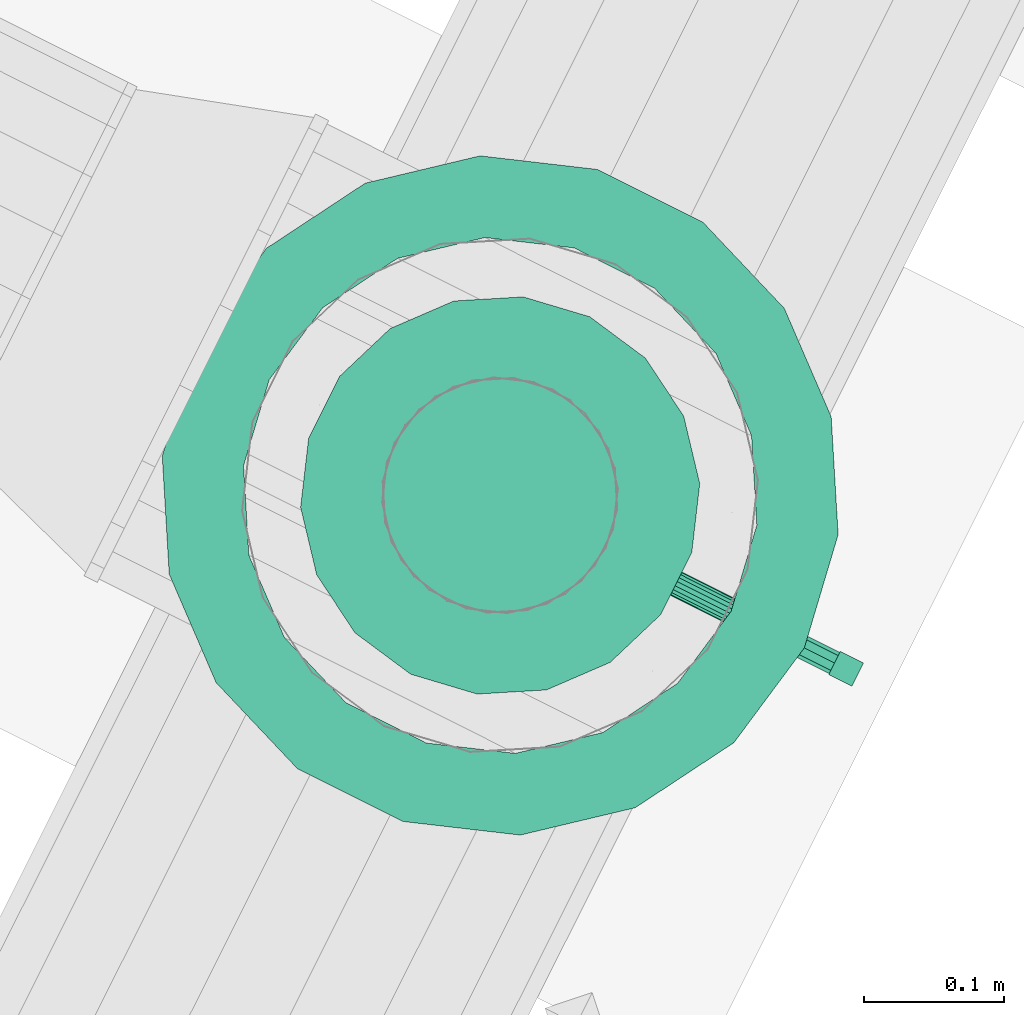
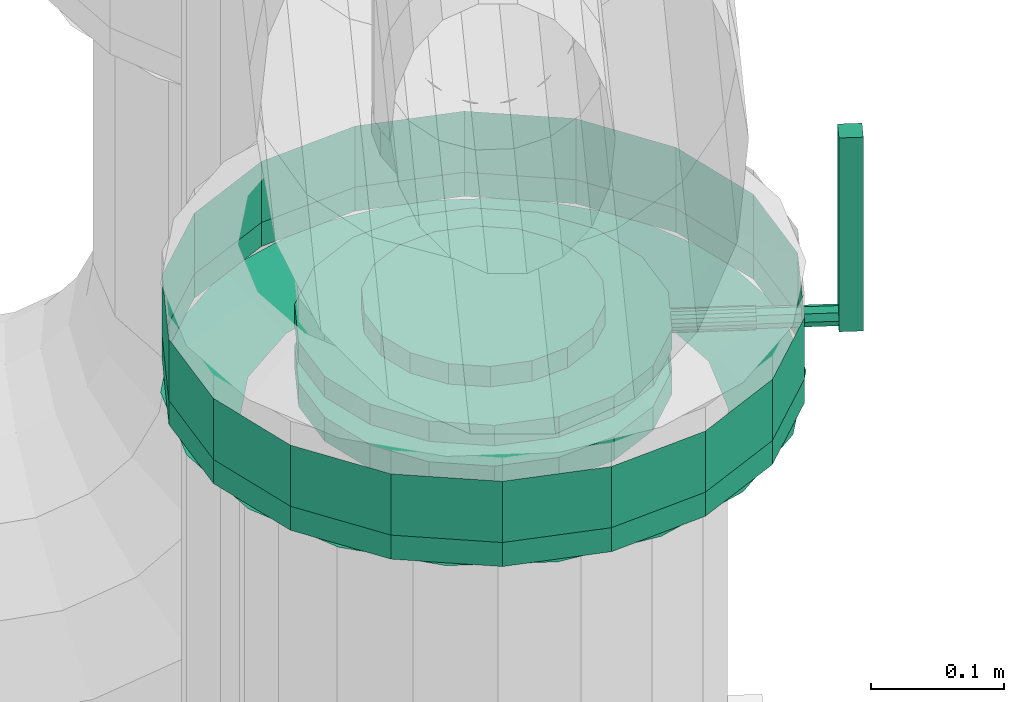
# One storey, part 22 of 152: 1 flow controller, 1 flow fitting.
"""IFC2X3 building model written with IfcOpenShell, lengths in metres."""

from ifc_helpers import new_model, si_unit, derived_unit, direction, frame, origin, place, context, subcontext, project, spatial, face_set, surface_model, source, transform, mapped, material, type_object, type_shapes, element, save


model = new_model("IFC2X3")

# Units and contexts
model_context = context("Model", 3, precision=5.2338327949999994e-05, world=origin(), true_north=direction((0.0, 1.0)))
body_context = subcontext(model_context, "Body", "Model", "MODEL_VIEW")
ifc_project = project(units=[si_unit("LENGTHUNIT", "METRE"), si_unit("AREAUNIT", "SQUARE_METRE"), si_unit("VOLUMEUNIT", "CUBIC_METRE"), si_unit("MASSUNIT", "GRAM", prefix="KILO"), si_unit("PLANEANGLEUNIT", "RADIAN"), derived_unit("THERMALTRANSMITTANCEUNIT", [(si_unit("MASSUNIT", "GRAM", prefix="KILO"), 1), (si_unit("THERMODYNAMICTEMPERATUREUNIT", "KELVIN"), -1), (si_unit("TIMEUNIT", "SECOND"), -3)])], contexts=[model_context])

# Site, building, storey
site_placement = place(None, frame((0.0, 0.0, 0.0), z_axis=(0.0, 0.0, 1.0), x_axis=(0.8939966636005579, -0.4480736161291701, 0.0)))
site = spatial("IfcSite", under=ifc_project, at=site_placement, Name="Default", CompositionType="ELEMENT")
building_placement = place(site_placement, origin())
building = spatial("IfcBuilding", under=site, at=building_placement, CompositionType="ELEMENT")
storey_placement = place(building_placement, frame((0.0, 0.0, 2.7499999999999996)))
storey = spatial("IfcBuildingStorey", under=building, at=storey_placement, Name="1. Obergeschoss", CompositionType="ELEMENT", Elevation=2.7499999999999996)

# Flow fitting
ifc_material = material(Name="IfcSurfaceStyle #9317")
distribution_element_type_1 = type_object("IfcDistributionElementType", Name="Flansch 221205:Flansch 221205", material=ifc_material)
shared_shape_1 = source(origin(), body_context, "Body", "SurfaceModel", [
    surface_model("IfcFaceBasedSurfaceModel", [(11.725814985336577, 6.734248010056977, 4.662303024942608), (11.774552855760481, 6.725654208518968, 4.662303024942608), (11.774552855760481, 6.725654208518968, 4.6403030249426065), (11.725814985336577, 6.734248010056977, 4.6403030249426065), (11.817412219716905, 6.700909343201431, 4.662303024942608), (11.817412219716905, 6.700909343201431, 4.6403030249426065), (11.84922360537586, 6.662998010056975, 4.662303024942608), (11.84922360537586, 6.662998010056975, 4.6403030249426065), (11.866150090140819, 6.616492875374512, 4.662303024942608), (11.866150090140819, 6.616492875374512, 4.6403030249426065), (11.866150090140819, 6.567003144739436, 4.662303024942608), (11.866150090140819, 6.567003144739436, 4.6403030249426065), (11.849223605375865, 6.520498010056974, 4.662303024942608), (11.849223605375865, 6.520498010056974, 4.6403030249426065), (11.817412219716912, 6.482586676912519, 4.662303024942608), (11.817412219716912, 6.482586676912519, 4.6403030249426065), (11.774552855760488, 6.457841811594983, 4.662303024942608), (11.774552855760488, 6.457841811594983, 4.6403030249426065), (11.72581498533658, 6.449248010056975, 4.662303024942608), (11.72581498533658, 6.449248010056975, 4.6403030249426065), (11.677077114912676, 6.457841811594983, 4.662303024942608), (11.677077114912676, 6.457841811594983, 4.6403030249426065), (11.63421775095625, 6.482586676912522, 4.662303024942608), (11.63421775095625, 6.482586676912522, 4.6403030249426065), (11.602406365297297, 6.5204980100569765, 4.662303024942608), (11.602406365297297, 6.5204980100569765, 4.6403030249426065), (11.585479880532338, 6.567003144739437, 4.662303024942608), (11.585479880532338, 6.567003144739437, 4.6403030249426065), (11.585479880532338, 6.616492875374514, 4.662303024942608), (11.585479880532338, 6.616492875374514, 4.6403030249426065), (11.602406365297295, 6.662998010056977, 4.662303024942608), (11.602406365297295, 6.662998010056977, 4.6403030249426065), (11.634217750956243, 6.70090934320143, 4.662303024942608), (11.634217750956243, 6.70090934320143, 4.6403030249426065), (11.677077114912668, 6.725654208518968, 4.662303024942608), (11.677077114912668, 6.725654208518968, 4.6403030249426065), (11.725814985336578, 6.591748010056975, 4.6403030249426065), (11.817814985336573, 6.591748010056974, 4.640303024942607), (11.812266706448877, 6.560282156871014, 4.640303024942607), (11.804890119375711, 6.562967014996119, 4.607303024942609), (11.80996498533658, 6.591748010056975, 4.607303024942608), (11.796291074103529, 6.532611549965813, 4.6403030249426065), (11.790277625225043, 6.537657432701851, 4.607303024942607), (11.77181498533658, 6.512073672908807, 4.6403030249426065), (11.76788998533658, 6.5188719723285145, 4.607303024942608), (11.741790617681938, 6.50114569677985, 4.6403030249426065), (11.740427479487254, 6.508876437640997, 4.607303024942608), (11.709839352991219, 6.50114569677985, 4.6403030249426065), (11.711202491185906, 6.508876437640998, 4.607303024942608), (11.679814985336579, 6.51207367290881, 4.6403030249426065), (11.68373998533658, 6.5188719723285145, 4.607303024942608), (11.655338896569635, 6.532611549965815, 4.6403030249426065), (11.661352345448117, 6.537657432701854, 4.607303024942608), (11.639363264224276, 6.560282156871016, 4.640303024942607), (11.646739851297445, 6.5629670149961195, 4.607303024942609), (11.633814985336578, 6.5917480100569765, 4.6403030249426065), (11.641664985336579, 6.591748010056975, 4.607303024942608), (11.639363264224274, 6.623213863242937, 4.6403030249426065), (11.646739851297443, 6.62052900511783, 4.607303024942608), (11.655338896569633, 6.650884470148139, 4.6403030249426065), (11.661352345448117, 6.645838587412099, 4.607303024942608), (11.679814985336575, 6.6714223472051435, 4.6403030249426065), (11.683739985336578, 6.664624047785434, 4.607303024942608), (11.709839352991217, 6.682350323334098, 4.6403030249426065), (11.711202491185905, 6.674619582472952, 4.607303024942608), (11.741790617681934, 6.682350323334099, 4.6403030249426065), (11.740427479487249, 6.674619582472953, 4.607303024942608), (11.77181498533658, 6.671422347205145, 4.6403030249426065), (11.767889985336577, 6.664624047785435, 4.607303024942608), (11.796291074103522, 6.650884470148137, 4.6403030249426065), (11.790277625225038, 6.645838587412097, 4.607303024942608), (11.812266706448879, 6.623213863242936, 4.6403030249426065), (11.804890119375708, 6.620529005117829, 4.607303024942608), (11.725814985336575, 6.834248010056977, 4.662303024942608), (11.808754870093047, 6.819623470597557, 4.662303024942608), (11.808754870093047, 6.819623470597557, 4.6403030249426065), (11.725814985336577, 6.834248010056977, 4.6403030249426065), (11.88169098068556, 6.777513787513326, 4.662303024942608), (11.88169098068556, 6.777513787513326, 4.6403030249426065), (11.9358261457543, 6.712998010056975, 4.662303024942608), (11.9358261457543, 6.712998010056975, 4.6403030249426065), (11.964630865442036, 6.6338576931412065, 4.662303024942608), (11.964630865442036, 6.6338576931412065, 4.6403030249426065), (11.964630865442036, 6.549638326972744, 4.662303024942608), (11.964630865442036, 6.549638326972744, 4.6403030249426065), (11.935826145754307, 6.470498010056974, 4.662303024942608), (11.935826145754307, 6.470498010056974, 4.6403030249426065), (11.881690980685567, 6.405982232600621, 4.662303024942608), (11.881690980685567, 6.405982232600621, 4.6403030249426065), (11.808754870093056, 6.36387254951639, 4.662303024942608), (11.808754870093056, 6.36387254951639, 4.6403030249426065), (11.72581498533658, 6.349248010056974, 4.662303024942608), (11.72581498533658, 6.349248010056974, 4.6403030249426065), (11.64287510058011, 6.3638725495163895, 4.662303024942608), (11.64287510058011, 6.3638725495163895, 4.6403030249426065), (11.569938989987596, 6.405982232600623, 4.662303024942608), (11.569938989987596, 6.405982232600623, 4.6403030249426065), (11.515803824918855, 6.470498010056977, 4.662303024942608), (11.515803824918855, 6.470498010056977, 4.6403030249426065), (11.48699910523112, 6.549638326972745, 4.662303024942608), (11.48699910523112, 6.549638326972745, 4.6403030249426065), (11.486999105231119, 6.633857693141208, 4.662303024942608), (11.486999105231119, 6.633857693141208, 4.6403030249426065), (11.515803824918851, 6.7129980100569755, 4.662303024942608), (11.515803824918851, 6.7129980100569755, 4.6403030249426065), (11.569938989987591, 6.777513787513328, 4.662303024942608), (11.569938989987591, 6.777513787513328, 4.6403030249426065), (11.6428751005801, 6.819623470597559, 4.662303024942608), (11.6428751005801, 6.819623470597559, 4.6403030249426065), (11.968314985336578, 6.591748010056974, 4.6403030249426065), (11.953690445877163, 6.5088081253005, 4.6403030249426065), (11.8988593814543, 6.528765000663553, 4.607303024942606), (11.909964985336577, 6.591748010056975, 4.607303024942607), (11.911580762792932, 6.4358720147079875, 4.640303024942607), (11.86688206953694, 6.4733786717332, 4.607303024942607), (11.847064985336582, 6.381736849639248, 4.6403030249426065), (11.817889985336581, 6.432269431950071, 4.607303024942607), (11.767924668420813, 6.352932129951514, 4.640303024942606), (11.757792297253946, 6.410395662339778, 4.607303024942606), (11.683705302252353, 6.352932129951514, 4.6403030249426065), (11.693837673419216, 6.410395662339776, 4.607303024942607), (11.604564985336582, 6.381736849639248, 4.6403030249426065), (11.63373998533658, 6.432269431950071, 4.607303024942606), (11.54004920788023, 6.43587201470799, 4.6403030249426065), (11.58474790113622, 6.4733786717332, 4.607303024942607), (11.497939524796, 6.508808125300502, 4.6403030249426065), (11.552770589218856, 6.528765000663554, 4.607303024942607), (11.483314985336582, 6.591748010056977, 4.640303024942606), (11.54166498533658, 6.5917480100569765, 4.607303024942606), (11.497939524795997, 6.6746878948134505, 4.6403030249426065), (11.552770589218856, 6.654731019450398, 4.607303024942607), (11.540049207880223, 6.747624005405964, 4.640303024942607), (11.584747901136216, 6.710117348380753, 4.607303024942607), (11.604564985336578, 6.8017591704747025, 4.6403030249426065), (11.633739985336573, 6.751226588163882, 4.607303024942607), (11.683705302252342, 6.830563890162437, 4.6403030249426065), (11.693837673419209, 6.773100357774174, 4.607303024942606), (11.767924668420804, 6.830563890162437, 4.6403030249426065), (11.757792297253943, 6.773100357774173, 4.607303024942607), (11.847064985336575, 6.801759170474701, 4.6403030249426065), (11.817889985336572, 6.751226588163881, 4.607303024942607), (11.911580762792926, 6.747624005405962, 4.6403030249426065), (11.866882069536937, 6.710117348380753, 4.607303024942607), (11.953690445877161, 6.674687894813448, 4.6403030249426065), (11.8988593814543, 6.654731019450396, 4.607303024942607)], [face_set([[[0, 1, 2, 3]], [[1, 4, 5, 2]], [[4, 6, 7, 5]], [[6, 8, 9, 7]], [[8, 10, 11, 9]], [[10, 12, 13, 11]], [[12, 14, 15, 13]], [[14, 16, 17, 15]], [[16, 18, 19, 17]], [[18, 20, 21, 19]], [[20, 22, 23, 21]], [[22, 24, 25, 23]], [[24, 26, 27, 25]], [[26, 28, 29, 27]], [[28, 30, 31, 29]], [[30, 32, 33, 31]], [[32, 34, 35, 33]], [[34, 0, 3, 35]], [[36, 35, 3]], [[36, 33, 35]], [[36, 31, 33]], [[36, 29, 31]], [[36, 27, 29]], [[36, 25, 27]], [[36, 23, 25]], [[36, 21, 23]], [[36, 19, 21]], [[36, 17, 19]], [[36, 15, 17]], [[36, 13, 15]], [[36, 11, 13]], [[36, 9, 11]], [[36, 7, 9]], [[36, 5, 7]], [[36, 2, 5]], [[36, 3, 2]], [[37, 38, 39, 40]], [[38, 41, 42, 39]], [[41, 43, 44, 42]], [[43, 45, 46, 44]], [[45, 47, 48, 46]], [[47, 49, 50, 48]], [[49, 51, 52, 50]], [[51, 53, 54, 52]], [[53, 55, 56, 54]], [[55, 57, 58, 56]], [[57, 59, 60, 58]], [[59, 61, 62, 60]], [[61, 63, 64, 62]], [[63, 65, 66, 64]], [[65, 67, 68, 66]], [[67, 69, 70, 68]], [[69, 71, 72, 70]], [[71, 37, 40, 72]], [[73, 74, 75, 76]], [[74, 77, 78, 75]], [[77, 79, 80, 78]], [[79, 81, 82, 80]], [[81, 83, 84, 82]], [[83, 85, 86, 84]], [[85, 87, 88, 86]], [[87, 89, 90, 88]], [[89, 91, 92, 90]], [[91, 93, 94, 92]], [[93, 95, 96, 94]], [[95, 97, 98, 96]], [[97, 99, 100, 98]], [[99, 101, 102, 100]], [[101, 103, 104, 102]], [[103, 105, 106, 104]], [[105, 107, 108, 106]], [[107, 73, 76, 108]], [[109, 110, 111, 112]], [[110, 113, 114, 111]], [[113, 115, 116, 114]], [[115, 117, 118, 116]], [[117, 119, 120, 118]], [[119, 121, 122, 120]], [[121, 123, 124, 122]], [[123, 125, 126, 124]], [[125, 127, 128, 126]], [[127, 129, 130, 128]], [[129, 131, 132, 130]], [[131, 133, 134, 132]], [[133, 135, 136, 134]], [[135, 137, 138, 136]], [[137, 139, 140, 138]], [[139, 141, 142, 140]], [[141, 143, 144, 142]], [[143, 109, 112, 144]]])]),
])
type_shapes(distribution_element_type_1, [shared_shape_1])
flow_fitting_placement = place(storey_placement, frame((0.0, 0.0, -2.7499999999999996)))
element("IfcFlowFitting", 1, at=flow_fitting_placement, inside=storey, type_object=distribution_element_type_1, material=ifc_material, Name="Flansch", ObjectType="Flansch", context=body_context, shape_type="MappedRepresentation", body=[
    mapped(shared_shape_1, transform((0.0, 0.0, 0.0), scale=1.0)),
])

# Flow controller
distribution_element_type_2 = type_object("IfcDistributionElementType", Name="Zwischenflanschklappe 221228:Zwischenflanschklappe 221228", material=ifc_material)
shared_shape_2 = source(origin(), body_context, "Body", "SurfaceModel", [
    surface_model("IfcFaceBasedSurfaceModel", [(11.992414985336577, 6.600948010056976, 4.858603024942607), (11.992414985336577, 6.600948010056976, 4.681103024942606), (11.992414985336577, 6.582548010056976, 4.681103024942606), (11.992414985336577, 6.582548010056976, 4.858603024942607), (12.010814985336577, 6.582548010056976, 4.681103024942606), (12.010814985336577, 6.582548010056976, 4.858603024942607), (12.010814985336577, 6.600948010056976, 4.681103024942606), (12.010814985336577, 6.600948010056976, 4.858603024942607), (11.725814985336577, 6.499748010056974, 4.718303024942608), (11.694349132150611, 6.505296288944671, 4.718303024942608), (11.694349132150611, 6.505296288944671, 4.69963635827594), (11.725814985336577, 6.499748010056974, 4.69963635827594), (11.666678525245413, 6.521271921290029, 4.718303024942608), (11.666678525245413, 6.521271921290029, 4.69963635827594), (11.646140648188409, 6.545748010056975, 4.718303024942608), (11.646140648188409, 6.545748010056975, 4.69963635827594), (11.635212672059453, 6.575772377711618, 4.718303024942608), (11.635212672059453, 6.575772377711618, 4.69963635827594), (11.635212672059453, 6.607723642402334, 4.718303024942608), (11.635212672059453, 6.607723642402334, 4.69963635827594), (11.646140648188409, 6.637748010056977, 4.718303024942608), (11.646140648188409, 6.637748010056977, 4.69963635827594), (11.666678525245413, 6.662224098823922, 4.718303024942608), (11.666678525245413, 6.662224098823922, 4.69963635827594), (11.694349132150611, 6.67819973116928, 4.718303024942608), (11.694349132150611, 6.67819973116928, 4.69963635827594), (11.725814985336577, 6.683748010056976, 4.718303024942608), (11.725814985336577, 6.683748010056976, 4.69963635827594), (11.757280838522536, 6.67819973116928, 4.718303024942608), (11.757280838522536, 6.67819973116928, 4.69963635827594), (11.784951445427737, 6.662224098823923, 4.718303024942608), (11.784951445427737, 6.662224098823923, 4.69963635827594), (11.805489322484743, 6.637748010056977, 4.718303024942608), (11.805489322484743, 6.637748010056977, 4.69963635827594), (11.816417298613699, 6.607723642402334, 4.718303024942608), (11.816417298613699, 6.607723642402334, 4.69963635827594), (11.816417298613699, 6.575772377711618, 4.718303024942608), (11.816417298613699, 6.575772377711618, 4.69963635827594), (11.80548932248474, 6.545748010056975, 4.718303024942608), (11.80548932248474, 6.545748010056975, 4.69963635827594), (11.784951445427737, 6.521271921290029, 4.718303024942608), (11.784951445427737, 6.521271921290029, 4.69963635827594), (11.757280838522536, 6.505296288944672, 4.718303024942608), (11.757280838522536, 6.505296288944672, 4.69963635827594), (11.725814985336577, 6.5917480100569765, 4.718303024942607), (11.725814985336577, 6.5917480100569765, 4.6996363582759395), (11.725814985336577, 6.449248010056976, 4.69963635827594), (11.677077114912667, 6.457841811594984, 4.69963635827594), (11.677077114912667, 6.457841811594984, 4.680969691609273), (11.725814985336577, 6.449248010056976, 4.680969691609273), (11.634217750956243, 6.482586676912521, 4.69963635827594), (11.634217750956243, 6.482586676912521, 4.680969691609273), (11.602406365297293, 6.5204980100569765, 4.69963635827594), (11.602406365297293, 6.5204980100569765, 4.680969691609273), (11.585479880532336, 6.567003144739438, 4.69963635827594), (11.585479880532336, 6.567003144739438, 4.680969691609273), (11.585479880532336, 6.616492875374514, 4.69963635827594), (11.585479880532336, 6.616492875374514, 4.680969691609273), (11.602406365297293, 6.662998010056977, 4.69963635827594), (11.602406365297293, 6.662998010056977, 4.680969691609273), (11.634217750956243, 6.70090934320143, 4.69963635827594), (11.634217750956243, 6.70090934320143, 4.680969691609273), (11.677077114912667, 6.725654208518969, 4.69963635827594), (11.677077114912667, 6.725654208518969, 4.680969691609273), (11.725814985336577, 6.734248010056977, 4.69963635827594), (11.725814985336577, 6.734248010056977, 4.680969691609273), (11.774552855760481, 6.725654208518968, 4.69963635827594), (11.774552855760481, 6.725654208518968, 4.680969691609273), (11.817412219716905, 6.700909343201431, 4.69963635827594), (11.817412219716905, 6.700909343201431, 4.680969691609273), (11.84922360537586, 6.662998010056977, 4.69963635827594), (11.84922360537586, 6.662998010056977, 4.680969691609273), (11.866150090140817, 6.616492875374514, 4.69963635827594), (11.866150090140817, 6.616492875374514, 4.680969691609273), (11.866150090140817, 6.567003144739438, 4.69963635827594), (11.866150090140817, 6.567003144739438, 4.680969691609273), (11.84922360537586, 6.5204980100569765, 4.69963635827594), (11.84922360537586, 6.5204980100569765, 4.680969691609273), (11.817412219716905, 6.482586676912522, 4.69963635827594), (11.817412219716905, 6.482586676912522, 4.680969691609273), (11.774552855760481, 6.457841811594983, 4.69963635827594), (11.774552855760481, 6.457841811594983, 4.680969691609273), (11.725814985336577, 6.5917480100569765, 4.680969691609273), (11.725814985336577, 6.499748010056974, 4.680969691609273), (11.694349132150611, 6.505296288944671, 4.680969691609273), (11.694349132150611, 6.505296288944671, 4.662303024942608), (11.725814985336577, 6.499748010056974, 4.662303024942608), (11.666678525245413, 6.521271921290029, 4.680969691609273), (11.666678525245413, 6.521271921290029, 4.662303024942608), (11.646140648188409, 6.545748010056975, 4.680969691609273), (11.646140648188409, 6.545748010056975, 4.662303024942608), (11.635212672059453, 6.575772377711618, 4.680969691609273), (11.635212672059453, 6.575772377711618, 4.662303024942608), (11.635212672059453, 6.607723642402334, 4.680969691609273), (11.635212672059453, 6.607723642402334, 4.662303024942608), (11.646140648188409, 6.637748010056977, 4.680969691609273), (11.646140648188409, 6.637748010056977, 4.662303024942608), (11.666678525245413, 6.662224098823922, 4.680969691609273), (11.666678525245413, 6.662224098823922, 4.662303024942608), (11.694349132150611, 6.67819973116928, 4.680969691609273), (11.694349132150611, 6.67819973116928, 4.662303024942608), (11.725814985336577, 6.683748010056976, 4.680969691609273), (11.725814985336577, 6.683748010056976, 4.662303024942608), (11.757280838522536, 6.67819973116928, 4.680969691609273), (11.757280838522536, 6.67819973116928, 4.662303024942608), (11.784951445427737, 6.662224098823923, 4.680969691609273), (11.784951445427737, 6.662224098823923, 4.662303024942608), (11.805489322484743, 6.637748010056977, 4.680969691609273), (11.805489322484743, 6.637748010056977, 4.662303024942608), (11.816417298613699, 6.607723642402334, 4.680969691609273), (11.816417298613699, 6.607723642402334, 4.662303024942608), (11.816417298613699, 6.575772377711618, 4.680969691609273), (11.816417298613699, 6.575772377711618, 4.662303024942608), (11.80548932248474, 6.545748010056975, 4.680969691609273), (11.80548932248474, 6.545748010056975, 4.662303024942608), (11.784951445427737, 6.521271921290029, 4.680969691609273), (11.784951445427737, 6.521271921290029, 4.662303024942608), (11.757280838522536, 6.505296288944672, 4.680969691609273), (11.757280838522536, 6.505296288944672, 4.662303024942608), (11.725814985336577, 6.5917480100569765, 4.662303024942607), (11.725814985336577, 6.582414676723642, 4.690303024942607), (11.725814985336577, 6.582977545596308, 4.687110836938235), (11.930364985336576, 6.582977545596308, 4.687110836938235), (11.930364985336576, 6.582414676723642, 4.690303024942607), (11.725814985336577, 6.584598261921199, 4.684303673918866), (11.930364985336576, 6.584598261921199, 4.684303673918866), (11.725814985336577, 6.5870813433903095, 4.682220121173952), (11.930364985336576, 6.5870813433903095, 4.682220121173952), (11.725814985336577, 6.590127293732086, 4.681111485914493), (11.930364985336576, 6.590127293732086, 4.681111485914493), (11.725814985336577, 6.5933687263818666, 4.681111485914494), (11.930364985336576, 6.5933687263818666, 4.681111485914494), (11.725814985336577, 6.596414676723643, 4.682220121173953), (11.930364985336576, 6.596414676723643, 4.682220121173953), (11.725814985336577, 6.598897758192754, 4.684303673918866), (11.930364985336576, 6.598897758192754, 4.684303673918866), (11.725814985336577, 6.600518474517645, 4.687110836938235), (11.930364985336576, 6.600518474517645, 4.687110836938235), (11.725814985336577, 6.601081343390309, 4.690303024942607), (11.930364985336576, 6.601081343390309, 4.690303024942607), (11.725814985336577, 6.600518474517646, 4.6934952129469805), (11.930364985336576, 6.600518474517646, 4.6934952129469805), (11.725814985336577, 6.598897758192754, 4.696302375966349), (11.930364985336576, 6.598897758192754, 4.696302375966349), (11.725814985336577, 6.596414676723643, 4.698385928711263), (11.930364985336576, 6.596414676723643, 4.698385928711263), (11.725814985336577, 6.5933687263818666, 4.699494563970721), (11.930364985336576, 6.5933687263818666, 4.699494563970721), (11.725814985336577, 6.590127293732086, 4.699494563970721), (11.930364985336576, 6.590127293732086, 4.699494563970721), (11.725814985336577, 6.5870813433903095, 4.698385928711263), (11.930364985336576, 6.5870813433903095, 4.698385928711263), (11.725814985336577, 6.584598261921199, 4.696302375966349), (11.930364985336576, 6.584598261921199, 4.696302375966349), (11.725814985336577, 6.582977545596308, 4.6934952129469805), (11.930364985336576, 6.582977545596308, 4.6934952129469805), (11.725814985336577, 6.5917480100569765, 4.690303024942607), (11.930364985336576, 6.5917480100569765, 4.690303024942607), (11.930364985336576, 6.583333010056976, 4.690303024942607), (11.930364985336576, 6.585797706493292, 4.6843527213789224), (11.992414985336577, 6.585797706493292, 4.6843527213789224), (11.992414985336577, 6.583333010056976, 4.690303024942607), (11.930364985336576, 6.5917480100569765, 4.681888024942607), (11.992414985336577, 6.5917480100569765, 4.681888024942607), (11.930364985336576, 6.59769831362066, 4.6843527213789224), (11.992414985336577, 6.59769831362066, 4.6843527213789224), (11.930364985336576, 6.600163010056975, 4.690303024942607), (11.992414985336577, 6.600163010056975, 4.690303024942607), (11.930364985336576, 6.597698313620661, 4.696253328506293), (11.992414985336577, 6.597698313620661, 4.696253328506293), (11.930364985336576, 6.5917480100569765, 4.698718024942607), (11.992414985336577, 6.5917480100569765, 4.698718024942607), (11.930364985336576, 6.585797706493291, 4.696253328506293), (11.992414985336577, 6.585797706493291, 4.696253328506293), (11.992414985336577, 6.5917480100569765, 4.690303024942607), (11.725814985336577, 6.349248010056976, 4.718303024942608), (11.6428751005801, 6.363872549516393, 4.718303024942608), (11.6428751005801, 6.363872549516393, 4.662303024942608), (11.725814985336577, 6.349248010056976, 4.662303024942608), (11.569938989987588, 6.405982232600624, 4.718303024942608), (11.569938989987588, 6.405982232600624, 4.662303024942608), (11.515803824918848, 6.470498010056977, 4.718303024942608), (11.515803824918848, 6.470498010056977, 4.662303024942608), (11.486999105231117, 6.549638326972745, 4.718303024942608), (11.486999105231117, 6.549638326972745, 4.662303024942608), (11.486999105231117, 6.633857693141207, 4.718303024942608), (11.486999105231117, 6.633857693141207, 4.662303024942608), (11.515803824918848, 6.7129980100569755, 4.718303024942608), (11.515803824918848, 6.7129980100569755, 4.662303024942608), (11.569938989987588, 6.777513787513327, 4.718303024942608), (11.569938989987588, 6.777513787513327, 4.662303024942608), (11.6428751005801, 6.819623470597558, 4.718303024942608), (11.6428751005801, 6.819623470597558, 4.662303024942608), (11.725814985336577, 6.834248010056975, 4.718303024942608), (11.725814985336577, 6.834248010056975, 4.662303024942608), (11.80875487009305, 6.819623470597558, 4.718303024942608), (11.80875487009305, 6.819623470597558, 4.662303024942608), (11.88169098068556, 6.777513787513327, 4.718303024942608), (11.88169098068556, 6.777513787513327, 4.662303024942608), (11.9358261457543, 6.7129980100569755, 4.718303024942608), (11.9358261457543, 6.7129980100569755, 4.662303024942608), (11.964630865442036, 6.633857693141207, 4.718303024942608), (11.964630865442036, 6.633857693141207, 4.662303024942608), (11.964630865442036, 6.549638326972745, 4.718303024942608), (11.964630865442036, 6.549638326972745, 4.662303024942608), (11.935826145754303, 6.470498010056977, 4.718303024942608), (11.935826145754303, 6.470498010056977, 4.662303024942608), (11.88169098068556, 6.405982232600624, 4.718303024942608), (11.88169098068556, 6.405982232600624, 4.662303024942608), (11.80875487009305, 6.363872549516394, 4.718303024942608), (11.80875487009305, 6.363872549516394, 4.662303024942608)], [face_set([[[0, 1, 2, 3]], [[3, 2, 4, 5]], [[5, 4, 6, 7]], [[7, 6, 1, 0]], [[0, 3, 5, 7]], [[6, 4, 2, 1]], [[8, 9, 10, 11]], [[9, 12, 13, 10]], [[12, 14, 15, 13]], [[14, 16, 17, 15]], [[16, 18, 19, 17]], [[18, 20, 21, 19]], [[20, 22, 23, 21]], [[22, 24, 25, 23]], [[24, 26, 27, 25]], [[26, 28, 29, 27]], [[28, 30, 31, 29]], [[30, 32, 33, 31]], [[32, 34, 35, 33]], [[34, 36, 37, 35]], [[36, 38, 39, 37]], [[38, 40, 41, 39]], [[40, 42, 43, 41]], [[42, 8, 11, 43]], [[44, 9, 8]], [[44, 12, 9]], [[44, 14, 12]], [[44, 16, 14]], [[44, 18, 16]], [[44, 20, 18]], [[44, 22, 20]], [[44, 24, 22]], [[44, 26, 24]], [[44, 28, 26]], [[44, 30, 28]], [[44, 32, 30]], [[44, 34, 32]], [[44, 36, 34]], [[44, 38, 36]], [[44, 40, 38]], [[44, 42, 40]], [[44, 8, 42]], [[45, 43, 11]], [[45, 41, 43]], [[45, 39, 41]], [[45, 37, 39]], [[45, 35, 37]], [[45, 33, 35]], [[45, 31, 33]], [[45, 29, 31]], [[45, 27, 29]], [[45, 25, 27]], [[45, 23, 25]], [[45, 21, 23]], [[45, 19, 21]], [[45, 17, 19]], [[45, 15, 17]], [[45, 13, 15]], [[45, 10, 13]], [[45, 11, 10]], [[46, 47, 48, 49]], [[47, 50, 51, 48]], [[50, 52, 53, 51]], [[52, 54, 55, 53]], [[54, 56, 57, 55]], [[56, 58, 59, 57]], [[58, 60, 61, 59]], [[60, 62, 63, 61]], [[62, 64, 65, 63]], [[64, 66, 67, 65]], [[66, 68, 69, 67]], [[68, 70, 71, 69]], [[70, 72, 73, 71]], [[72, 74, 75, 73]], [[74, 76, 77, 75]], [[76, 78, 79, 77]], [[78, 80, 81, 79]], [[80, 46, 49, 81]], [[45, 47, 46]], [[45, 50, 47]], [[45, 52, 50]], [[45, 54, 52]], [[45, 56, 54]], [[45, 58, 56]], [[45, 60, 58]], [[45, 62, 60]], [[45, 64, 62]], [[45, 66, 64]], [[45, 68, 66]], [[45, 70, 68]], [[45, 72, 70]], [[45, 74, 72]], [[45, 76, 74]], [[45, 78, 76]], [[45, 80, 78]], [[45, 46, 80]], [[82, 81, 49]], [[82, 79, 81]], [[82, 77, 79]], [[82, 75, 77]], [[82, 73, 75]], [[82, 71, 73]], [[82, 69, 71]], [[82, 67, 69]], [[82, 65, 67]], [[82, 63, 65]], [[82, 61, 63]], [[82, 59, 61]], [[82, 57, 59]], [[82, 55, 57]], [[82, 53, 55]], [[82, 51, 53]], [[82, 48, 51]], [[82, 49, 48]], [[83, 84, 85, 86]], [[84, 87, 88, 85]], [[87, 89, 90, 88]], [[89, 91, 92, 90]], [[91, 93, 94, 92]], [[93, 95, 96, 94]], [[95, 97, 98, 96]], [[97, 99, 100, 98]], [[99, 101, 102, 100]], [[101, 103, 104, 102]], [[103, 105, 106, 104]], [[105, 107, 108, 106]], [[107, 109, 110, 108]], [[109, 111, 112, 110]], [[111, 113, 114, 112]], [[113, 115, 116, 114]], [[115, 117, 118, 116]], [[117, 83, 86, 118]], [[82, 84, 83]], [[82, 87, 84]], [[82, 89, 87]], [[82, 91, 89]], [[82, 93, 91]], [[82, 95, 93]], [[82, 97, 95]], [[82, 99, 97]], [[82, 101, 99]], [[82, 103, 101]], [[82, 105, 103]], [[82, 107, 105]], [[82, 109, 107]], [[82, 111, 109]], [[82, 113, 111]], [[82, 115, 113]], [[82, 117, 115]], [[82, 83, 117]], [[119, 118, 86]], [[119, 116, 118]], [[119, 114, 116]], [[119, 112, 114]], [[119, 110, 112]], [[119, 108, 110]], [[119, 106, 108]], [[119, 104, 106]], [[119, 102, 104]], [[119, 100, 102]], [[119, 98, 100]], [[119, 96, 98]], [[119, 94, 96]], [[119, 92, 94]], [[119, 90, 92]], [[119, 88, 90]], [[119, 85, 88]], [[119, 86, 85]], [[120, 121, 122, 123]], [[121, 124, 125, 122]], [[124, 126, 127, 125]], [[126, 128, 129, 127]], [[128, 130, 131, 129]], [[130, 132, 133, 131]], [[132, 134, 135, 133]], [[134, 136, 137, 135]], [[136, 138, 139, 137]], [[138, 140, 141, 139]], [[140, 142, 143, 141]], [[142, 144, 145, 143]], [[144, 146, 147, 145]], [[146, 148, 149, 147]], [[148, 150, 151, 149]], [[150, 152, 153, 151]], [[152, 154, 155, 153]], [[154, 120, 123, 155]], [[156, 121, 120]], [[156, 124, 121]], [[156, 126, 124]], [[156, 128, 126]], [[156, 130, 128]], [[156, 132, 130]], [[156, 134, 132]], [[156, 136, 134]], [[156, 138, 136]], [[156, 140, 138]], [[156, 142, 140]], [[156, 144, 142]], [[156, 146, 144]], [[156, 148, 146]], [[156, 150, 148]], [[156, 152, 150]], [[156, 154, 152]], [[156, 120, 154]], [[157, 155, 123]], [[157, 153, 155]], [[157, 151, 153]], [[157, 149, 151]], [[157, 147, 149]], [[157, 145, 147]], [[157, 143, 145]], [[157, 141, 143]], [[157, 139, 141]], [[157, 137, 139]], [[157, 135, 137]], [[157, 133, 135]], [[157, 131, 133]], [[157, 129, 131]], [[157, 127, 129]], [[157, 125, 127]], [[157, 122, 125]], [[157, 123, 122]], [[158, 159, 160, 161]], [[159, 162, 163, 160]], [[162, 164, 165, 163]], [[164, 166, 167, 165]], [[166, 168, 169, 167]], [[168, 170, 171, 169]], [[170, 172, 173, 171]], [[172, 158, 161, 173]], [[174, 173, 161]], [[174, 171, 173]], [[174, 169, 171]], [[174, 167, 169]], [[174, 165, 167]], [[174, 163, 165]], [[174, 160, 163]], [[174, 161, 160]], [[175, 176, 177, 178]], [[176, 179, 180, 177]], [[179, 181, 182, 180]], [[181, 183, 184, 182]], [[183, 185, 186, 184]], [[185, 187, 188, 186]], [[187, 189, 190, 188]], [[189, 191, 192, 190]], [[191, 193, 194, 192]], [[193, 195, 196, 194]], [[195, 197, 198, 196]], [[197, 199, 200, 198]], [[199, 201, 202, 200]], [[201, 203, 204, 202]], [[203, 205, 206, 204]], [[205, 207, 208, 206]], [[207, 209, 210, 208]], [[209, 175, 178, 210]]])]),
])
type_shapes(distribution_element_type_2, [shared_shape_2])
flow_controller_placement = place(storey_placement, frame((0.0, 0.0, -2.7499999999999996)))
element("IfcFlowController", 2, at=flow_controller_placement, inside=storey, type_object=distribution_element_type_2, material=ifc_material, Name="Zwischenflanschklappe", ObjectType="Zwischenflanschklappe", context=body_context, shape_type="MappedRepresentation", body=[
    mapped(shared_shape_2, transform((0.0, 0.0, 0.0), scale=1.0)),
])

save(model, "model.ifc")
